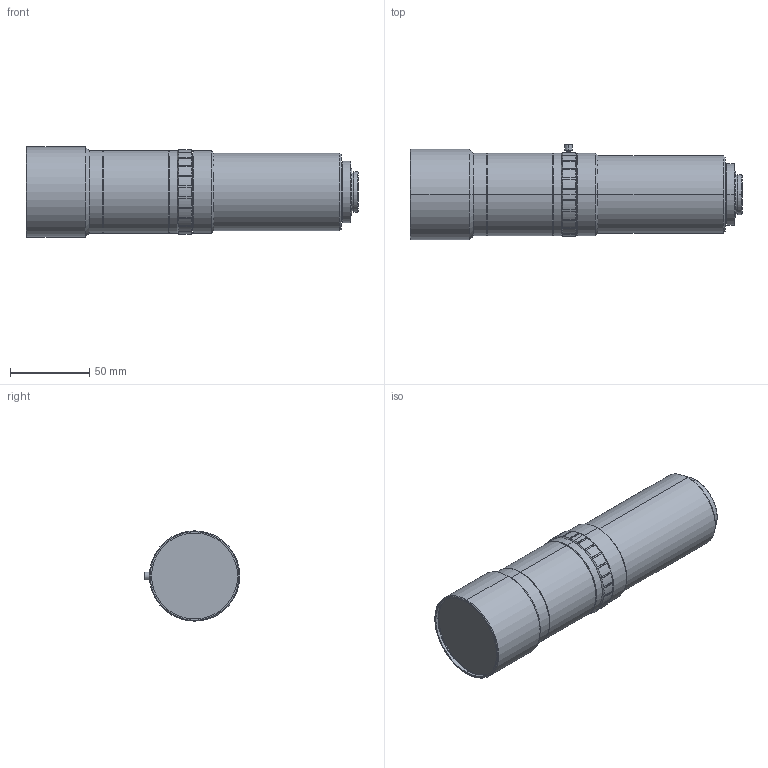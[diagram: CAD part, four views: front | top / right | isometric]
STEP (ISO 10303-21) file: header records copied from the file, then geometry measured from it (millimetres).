
FILE_DESCRIPTION (( 'STEP AP203' ), '1' );
FILE_NAME ('VS-TCM07-150_S.STEP', '2014-10-28T01:21:47', ( 'miura_vst' ), ( '' ), 'SwSTEP 2.0', 'SolidWorks 2014', '' );
FILE_SCHEMA (( 'CONFIG_CONTROL_DESIGN' ));
Length unit declared in the file: millimetre
Products named in the file (1): VS-TCM07-150_S
Bounding box: 209.48 x 60.25 x 57 mm (x, y, z)
Volume: 422848.3 mm3; surface area: 40596.5 mm2
Topology: 1 solids, 1 shells, 184 faces, 463 edges, 296 vertices
Faces by surface type: plane 89, cylinder 59, cone 36
Entity records: 5742 total; most frequent: CARTESIAN_POINT 1408, ORIENTED_EDGE 926, DIRECTION 837, EDGE_CURVE 463, AXIS2_PLACEMENT_3D 335, VERTEX_POINT 296, EDGE_LOOP 199, ADVANCED_FACE 184
